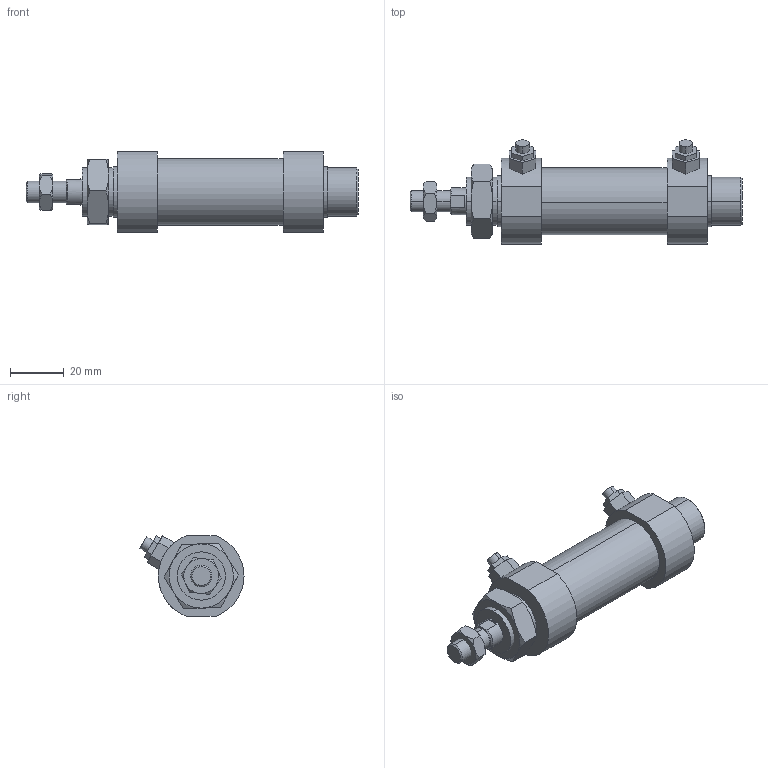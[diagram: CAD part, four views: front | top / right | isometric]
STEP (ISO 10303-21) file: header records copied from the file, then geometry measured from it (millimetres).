
FILE_DESCRIPTION (( 'STEP AP203' ), '1' );
FILE_NAME ('JG2-20-15-N.STEP', '2016-04-19T00:34:21', ( '' ), ( '' ), 'SwSTEP 2.0', 'SolidWorks 2014', '' );
FILE_SCHEMA (( 'CONFIG_CONTROL_DESIGN' ));
Length unit declared in the file: millimetre
Products named in the file (6): JG2-20-15-N; M18x1.5-8mm; JG2-20A; M8x1.25-5mm; JG2-20B; 20-15
Assembly tree (5 placements, depth 2):
  JG2-20-15-N
    JG2-20B
    20-15
    JG2-20A
    M8x1.25-5mm
    M18x1.5-8mm
Bounding box: 124 x 38.9 x 30 mm (x, y, z)
Volume: 56829.4 mm3; surface area: 16160.2 mm2
Topology: 5 solids, 5 shells, 136 faces, 302 edges, 188 vertices
Faces by surface type: plane 68, cylinder 30, torus 24, cone 14
Entity records: 4764 total; most frequent: CARTESIAN_POINT 1182, DIRECTION 624, ORIENTED_EDGE 596, EDGE_CURVE 298, AXIS2_PLACEMENT_3D 246, VERTEX_POINT 188, EDGE_LOOP 156, FACE_OUTER_BOUND 136
